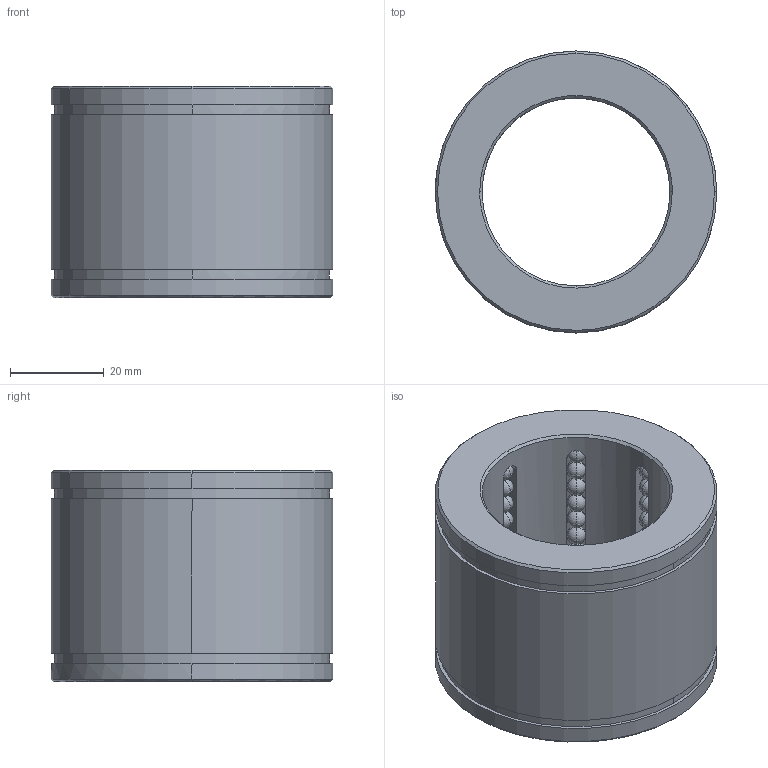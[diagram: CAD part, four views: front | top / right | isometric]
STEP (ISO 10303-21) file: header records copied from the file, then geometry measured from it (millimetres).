
FILE_DESCRIPTION(('CATIA V5 STEP Exchange'),'2;1');
FILE_NAME('C:\Users\Raffaele\Desktop\3D BOLEX\3D FILES CF BOLEX\3-BUSH REF 803\B8034045.stp','2019-06-19T14:06:43+00:00',('none'),('none'),'CATIA Version 5 Release 20 GA (IN-10)','CATIA V5 STEP AP203','none');
FILE_SCHEMA(('CONFIG_CONTROL_DESIGN'));
Length unit declared in the file: millimetre
Products named in the file (1): B8034045
Bounding box: 60 x 60 x 45 mm (x, y, z)
Volume: 67857.7 mm3; surface area: 23756.1 mm2
Topology: 73 solids, 73 shells, 362 faces, 1042 edges, 260 vertices
Faces by surface type: sphere 288, plane 30, cylinder 28, cone 16
Entity records: 7316 total; most frequent: CARTESIAN_POINT 1587, DIRECTION 1151, ORIENTED_EDGE 932, AXIS2_PLACEMENT_3D 696, EDGE_CURVE 466, EDGE_LOOP 374, ADVANCED_FACE 362, FACE_OUTER_BOUND 362
